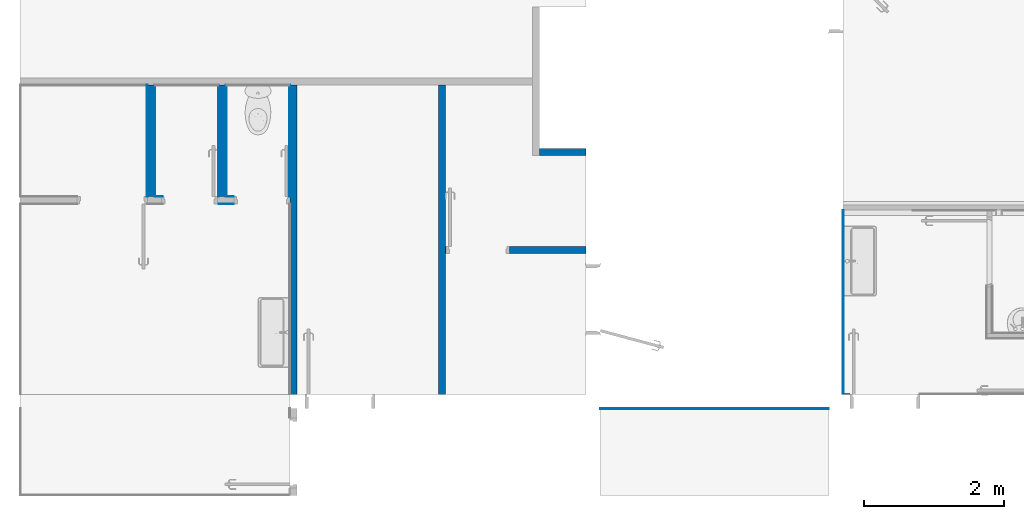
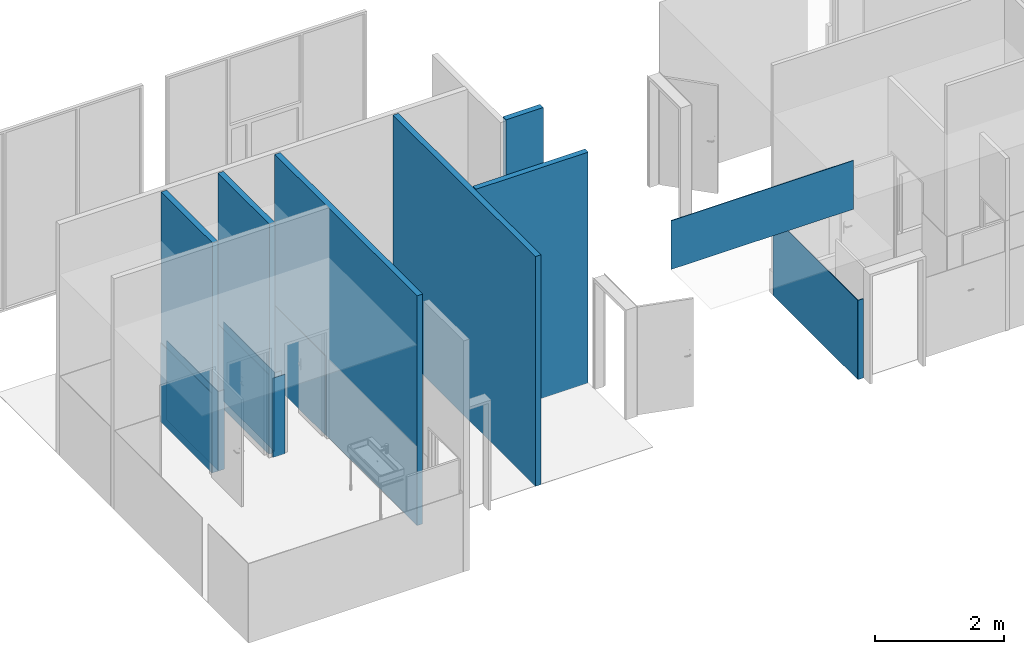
# One storey, part 4 of 18: 17 walls, 3 openings.
"""IFC2X3 building model written with IfcOpenShell, lengths in metres."""

from ifc_helpers import new_model, entity, si_unit, converted_unit, derived_unit, direction, frame, frame_2d, origin, place, context, subcontext, project, spatial, rectangle, extrude, material, layer, layer_set, layer_usage, type_object, element, save


model = new_model("IFC2X3")

# Units and contexts
model_context = context("Model", 3, precision=1e-05, world=origin(), true_north=direction((6.12303176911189e-17, 1.0)))
body_context = subcontext(model_context, "Body", "Model", "MODEL_VIEW")
ifc_project = project(units=[si_unit("LENGTHUNIT", "METRE"), si_unit("AREAUNIT", "SQUARE_METRE"), si_unit("VOLUMEUNIT", "CUBIC_METRE"), converted_unit("PLANEANGLEUNIT", "DEGREE", entity("IfcRatioMeasure", 0.0174532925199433), si_unit("PLANEANGLEUNIT", "RADIAN"), dimensions=[0, 0, 0, 0, 0, 0, 0]), si_unit("MASSUNIT", "GRAM", prefix="KILO"), derived_unit("MASSDENSITYUNIT", [(si_unit("MASSUNIT", "GRAM", prefix="KILO"), 1), (si_unit("LENGTHUNIT", "METRE"), -3)]), si_unit("TIMEUNIT", "SECOND"), si_unit("FREQUENCYUNIT", "HERTZ"), si_unit("THERMODYNAMICTEMPERATUREUNIT", "DEGREE_CELSIUS"), derived_unit("THERMALTRANSMITTANCEUNIT", [(si_unit("MASSUNIT", "GRAM", prefix="KILO"), 1), (si_unit("THERMODYNAMICTEMPERATUREUNIT", "KELVIN"), -1), (si_unit("TIMEUNIT", "SECOND"), -3)]), derived_unit("VOLUMETRICFLOWRATEUNIT", [(si_unit("LENGTHUNIT", "METRE"), 3), (si_unit("TIMEUNIT", "SECOND"), -1)]), si_unit("ELECTRICCURRENTUNIT", "AMPERE"), si_unit("ELECTRICVOLTAGEUNIT", "VOLT"), si_unit("POWERUNIT", "WATT"), si_unit("FORCEUNIT", "NEWTON", prefix="KILO"), si_unit("ILLUMINANCEUNIT", "LUX"), si_unit("LUMINOUSFLUXUNIT", "LUMEN"), si_unit("LUMINOUSINTENSITYUNIT", "CANDELA"), derived_unit("USERDEFINED", [(si_unit("MASSUNIT", "GRAM", prefix="KILO"), -1), (si_unit("LENGTHUNIT", "METRE"), -2), (si_unit("TIMEUNIT", "SECOND"), 3), (si_unit("LUMINOUSFLUXUNIT", "LUMEN"), 1)]), derived_unit("LINEARVELOCITYUNIT", [(si_unit("LENGTHUNIT", "METRE"), 1), (si_unit("TIMEUNIT", "SECOND"), -1)]), si_unit("PRESSUREUNIT", "PASCAL"), derived_unit("USERDEFINED", [(si_unit("LENGTHUNIT", "METRE"), -2), (si_unit("MASSUNIT", "GRAM", prefix="KILO"), 1), (si_unit("TIMEUNIT", "SECOND"), -2)])], contexts=[model_context])

# Site, building, storey
site_placement = place(None, origin())
site = spatial("IfcSite", under=ifc_project, at=site_placement, Name="Surface", CompositionType="ELEMENT")
building_placement = place(site_placement, origin())
building = spatial("IfcBuilding", under=site, at=building_placement, Name="ExPREF", CompositionType="ELEMENT")
storey_placement = place(building_placement, frame((0.0, 0.0, -4.62)))
storey = spatial("IfcBuildingStorey", under=building, at=storey_placement, Name="R-1", CompositionType="ELEMENT", Elevation=-4.62)

# Wall
ifc_material_1 = material(Name="AA-parpaing")
ifc_layer_1 = layer(ifc_material_1, 0.1)
ifc_layer_set_1 = layer_set([ifc_layer_1], Name="Mur de base:A-mur parpaing 10")
ifc_layer_usage_1 = layer_usage(ifc_layer_set_1, "AXIS2", "POSITIVE", -0.05)
wall_type_1 = type_object("IfcWallType", Name="Mur de base:A-mur parpaing 10", PredefinedType="STANDARD", material=ifc_layer_set_1)
wall_1_placement = place(storey_placement, frame((40.992743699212, -189.80806962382, 0.0)))
element("IfcWallStandardCase", 1, at=wall_1_placement, inside=storey, type_object=wall_type_1, material=ifc_layer_usage_1, Name="Mur de base:A-mur parpaing 10", ObjectType="Mur de base:A-mur parpaing 10", context=body_context, shape_type="SweptSolid", body=[
    extrude(rectangle(XDim=0.667000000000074, YDim=0.0999999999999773, at=frame_2d((0.333500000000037, 0.0), x_axis=(-1.0, 0.0))), origin(), (0.0, 0.0, 1.0), 4.3649999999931),
])

# Wall, opening
ifc_layer_usage_2 = layer_usage(ifc_layer_set_1, "AXIS2", "NEGATIVE", 0.05)
wall_2_placement = place(storey_placement, frame((37.4897436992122, -188.848464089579, 0.0), z_axis=(0.0, 0.0, 1.0), x_axis=(0.0, -1.0, 0.0)))
wall_2 = element("IfcWallStandardCase", 2, at=wall_2_placement, inside=storey, type_object=wall_type_1, material=ifc_layer_usage_2, Name="Mur de base:A-mur parpaing 10", ObjectType="Mur de base:A-mur parpaing 10", context=body_context, shape_type="SweptSolid", body=[
    extrude(rectangle(XDim=4.41118721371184, YDim=0.100000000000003, at=frame_2d((2.20559360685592, -8.32667268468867e-17), x_axis=(-1.0, 0.0))), origin(), (0.0, 0.0, 1.0), 4.34499999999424),
])
opening_1_placement = place(wall_2_placement, frame((1.69500000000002, -0.849999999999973, 0.0)))
element("IfcOpeningElement", 3, at=opening_1_placement, cuts=wall_2, Name="Mur de base:A-mur parpaing 10", ObjectType="Opening", context=body_context, shape_type="SweptSolid", body=[
    extrude(rectangle(XDim=2.075, YDim=0.100000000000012, at=frame_2d((-1.73229486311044e-14, -3.33066907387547e-16), x_axis=(0.0, 1.0))), frame((-0.0500000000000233, 0.0, 1.0375), z_axis=(0.0, 1.0, 0.0), x_axis=(-1.0, 0.0, 0.0)), (0.0, 0.0, 1.0), 0.8),
])

# Wall
ifc_layer_usage_3 = layer_usage(ifc_layer_set_1, "AXIS2", "NEGATIVE", 0.05)
wall_3_placement = place(storey_placement, frame((39.6047436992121, -193.259651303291, 0.0), z_axis=(0.0, 0.0, 1.0), x_axis=(0.0, 1.0, 0.0)))
element("IfcWallStandardCase", 4, at=wall_3_placement, inside=storey, type_object=wall_type_1, material=ifc_layer_usage_3, Name="Mur de base:A-mur parpaing 10", ObjectType="Mur de base:A-mur parpaing 10", context=body_context, shape_type="SweptSolid", body=[
    extrude(rectangle(XDim=4.41118721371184, YDim=0.0999999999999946, at=frame_2d((2.20559360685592, 1.60635393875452e-15), x_axis=(-1.0, 0.0))), origin(), (0.0, 0.0, 1.0), 4.34499999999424),
])

# Wall, opening
ifc_layer_usage_4 = layer_usage(ifc_layer_set_1, "AXIS2", "NEGATIVE", 0.05)
wall_4_placement = place(storey_placement, frame((39.6547436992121, -191.199651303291, 0.0)))
wall_4 = element("IfcWallStandardCase", 5, at=wall_4_placement, inside=storey, type_object=wall_type_1, material=ifc_layer_usage_4, Name="Mur de base:A-mur parpaing 10", ObjectType="Mur de base:A-mur parpaing 10", context=body_context, shape_type="SweptSolid", body=[
    extrude(rectangle(XDim=2.00499999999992, YDim=0.0999999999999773, at=frame_2d((1.00249999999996, 0.0), x_axis=(-1.0, 0.0))), origin(), (0.0, 0.0, 1.0), 4.3649999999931),
])
opening_2_placement = place(wall_4_placement, frame((0.00999999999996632, -0.05, 0.0)))
element("IfcOpeningElement", 6, at=opening_2_placement, cuts=wall_4, Name="Porte intérieur bois:PP (0.83m x 2.04m):1", ObjectType="Opening", context=body_context, shape_type="SweptSolid", body=[
    extrude(rectangle(XDim=2.075, YDim=0.9, at=frame_2d((1.0375, 0.45), x_axis=(1.0, 0.0))), frame((0.0, 0.0, 0.0), z_axis=(0.0, 1.0, 0.0), x_axis=(0.0, 0.0, 1.0)), (0.0, 0.0, 1.0), 0.1),
])

# Walls
ifc_layer_usage_5 = layer_usage(ifc_layer_set_1, "AXIS2", "POSITIVE", -0.05)
wall_5_placement = place(storey_placement, frame((36.4747436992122, -190.443464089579, 0.0), z_axis=(0.0, 0.0, 1.0), x_axis=(0.0, 1.0, 0.0)))
element("IfcWallStandardCase", 7, at=wall_5_placement, inside=storey, type_object=wall_type_1, material=ifc_layer_usage_5, Name="Mur de base:A-mur parpaing 10", ObjectType="Mur de base:A-mur parpaing 10", context=body_context, shape_type="SweptSolid", body=[
    extrude(rectangle(XDim=1.595, YDim=0.100000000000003, at=frame_2d((0.797500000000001, 0.0), x_axis=(-1.0, 0.0))), origin(), (0.0, 0.0, 1.0), 4.34499999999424),
])
ifc_layer_usage_6 = layer_usage(ifc_layer_set_1, "AXIS2", "POSITIVE", -0.05)
wall_6_placement = place(storey_placement, frame((35.4597436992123, -190.443464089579, 0.0), z_axis=(0.0, 0.0, 1.0), x_axis=(0.0, 1.0, 0.0)))
element("IfcWallStandardCase", 8, at=wall_6_placement, inside=storey, type_object=wall_type_1, material=ifc_layer_usage_6, Name="Mur de base:A-mur parpaing 10", ObjectType="Mur de base:A-mur parpaing 10", context=body_context, shape_type="SweptSolid", body=[
    extrude(rectangle(XDim=1.595, YDim=0.100000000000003, at=frame_2d((0.797500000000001, 0.0), x_axis=(-1.0, 0.0))), origin(), (0.0, 0.0, 1.0), 4.3449999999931),
])
ifc_material_2 = material(Name="AA-fermacell peint")
ifc_layer_2 = layer(ifc_material_2, 0.0125)
ifc_layer_set_2 = layer_set([ifc_layer_2], Name="Mur de base:A-plaque FC")
ifc_layer_usage_7 = layer_usage(ifc_layer_set_2, "AXIS2", "NEGATIVE", 0.00625)
wall_type_2 = type_object("IfcWallType", Name="Mur de base:A-plaque FC", PredefinedType="STANDARD", material=ifc_layer_set_2)
wall_7_placement = place(storey_placement, frame((41.8597436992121, -193.465901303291, 3.4225)))
element("IfcWallStandardCase", 9, at=wall_7_placement, inside=storey, type_object=wall_type_2, material=ifc_layer_usage_7, Name="Mur de base:A-plaque FC", ObjectType="Mur de base:A-plaque FC", context=body_context, shape_type="SweptSolid", body=[
    extrude(rectangle(XDim=3.25999999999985, YDim=0.0125000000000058, at=frame_2d((1.62999999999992, 0.0), x_axis=(-1.0, 0.0))), origin(), (0.0, 0.0, 1.0), 0.922499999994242),
])
ifc_material_3 = material(Name="AA-sol carrelage")
ifc_layer_3 = layer(ifc_material_3, 0.01)
ifc_layer_set_3 = layer_set([ifc_layer_3], Name="Mur de base:A-carrelage")
ifc_layer_usage_8 = layer_usage(ifc_layer_set_3, "AXIS2", "NEGATIVE", 0.005)
wall_type_3 = type_object("IfcWallType", Name="Mur de base:A-carrelage", PredefinedType="STANDARD", material=ifc_layer_set_3)
wall_8_placement = place(storey_placement, frame((45.4197436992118, -193.254651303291, 0.0), z_axis=(0.0, 0.0, 1.0), x_axis=(-1.0, 0.0, 0.0)))
element("IfcWallStandardCase", 10, at=wall_8_placement, inside=storey, type_object=wall_type_3, material=ifc_layer_usage_8, Name="Mur de base:A-carrelage", ObjectType="Mur de base:A-carrelage", context=body_context, shape_type="SweptSolid", body=[
    extrude(rectangle(XDim=0.0999999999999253, YDim=0.0100000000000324, at=frame_2d((0.0499999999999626, 0.0), x_axis=(-1.0, 0.0))), origin(), (0.0, 0.0, 1.0), 1.5),
])
ifc_layer_usage_9 = layer_usage(ifc_layer_set_3, "AXIS2", "NEGATIVE", 0.005)
wall_9_placement = place(storey_placement, frame((45.3247436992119, -193.249651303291, 0.0), z_axis=(0.0, 0.0, 1.0), x_axis=(0.0, 1.0, 0.0)))
element("IfcWallStandardCase", 11, at=wall_9_placement, inside=storey, type_object=wall_type_3, material=ifc_layer_usage_9, Name="Mur de base:A-carrelage", ObjectType="Mur de base:A-carrelage", context=body_context, shape_type="SweptSolid", body=[
    extrude(rectangle(XDim=2.61658136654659, YDim=0.00999999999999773, at=frame_2d((1.3082906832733, 0.0), x_axis=(-1.0, 0.0))), origin(), (0.0, 0.0, 1.0), 1.5),
])

# Wall, opening
ifc_layer_usage_10 = layer_usage(ifc_layer_set_3, "AXIS2", "NEGATIVE", 0.005)
wall_10_placement = place(storey_placement, frame((37.4347436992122, -188.848464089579, 0.0), z_axis=(0.0, 0.0, 1.0), x_axis=(0.0, -1.0, 0.0)))
wall_10 = element("IfcWallStandardCase", 12, at=wall_10_placement, inside=storey, type_object=wall_type_3, material=ifc_layer_usage_10, Name="Mur de base:A-carrelage", ObjectType="Mur de base:A-carrelage", context=body_context, shape_type="SweptSolid", body=[
    extrude(rectangle(XDim=1.595, YDim=0.00999999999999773, at=frame_2d((0.797500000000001, 0.0), x_axis=(-1.0, 0.0))), origin(), (0.0, 0.0, 1.0), 1.5),
])
opening_3_placement = place(wall_10_placement, frame((1.69499999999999, -0.794999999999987, 0.0)))
element("IfcOpeningElement", 13, at=opening_3_placement, cuts=wall_10, Name="Mur de base:A-carrelage", ObjectType="Opening", context=body_context, shape_type="SweptSolid", body=[
    extrude(rectangle(XDim=2.075, YDim=0.100000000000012, at=frame_2d((-1.73229486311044e-14, -3.33066907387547e-16), x_axis=(0.0, 1.0))), frame((-0.0500000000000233, 0.0, 1.0375), z_axis=(0.0, 1.0, 0.0), x_axis=(-1.0, 0.0, 0.0)), (0.0, 0.0, 1.0), 0.8),
])

# Walls
ifc_layer_usage_11 = layer_usage(ifc_layer_set_3, "AXIS2", "NEGATIVE", 0.005)
wall_11_placement = place(storey_placement, frame((36.6397436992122, -190.438464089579, 0.0), z_axis=(0.0, 0.0, 1.0), x_axis=(-1.0, 0.0, 0.0)))
element("IfcWallStandardCase", 14, at=wall_11_placement, inside=storey, type_object=wall_type_3, material=ifc_layer_usage_11, Name="Mur de base:A-carrelage", ObjectType="Mur de base:A-carrelage", context=body_context, shape_type="SweptSolid", body=[
    extrude(rectangle(XDim=0.115, YDim=0.0100000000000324, at=frame_2d((0.0574999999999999, 0.0), x_axis=(-1.0, 0.0))), origin(), (0.0, 0.0, 1.0), 1.5),
])
ifc_layer_usage_12 = layer_usage(ifc_layer_set_3, "AXIS2", "NEGATIVE", 0.005)
wall_12_placement = place(storey_placement, frame((36.5297436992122, -190.433464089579, 0.0), z_axis=(0.0, 0.0, 1.0), x_axis=(0.0, 1.0, 0.0)))
element("IfcWallStandardCase", 15, at=wall_12_placement, inside=storey, type_object=wall_type_3, material=ifc_layer_usage_12, Name="Mur de base:A-carrelage", ObjectType="Mur de base:A-carrelage", context=body_context, shape_type="SweptSolid", body=[
    extrude(rectangle(XDim=1.585, YDim=0.00999999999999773, at=frame_2d((0.792500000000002, 8.53483950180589e-16), x_axis=(-1.0, 0.0))), origin(), (0.0, 0.0, 1.0), 1.5),
])
ifc_layer_usage_13 = layer_usage(ifc_layer_set_3, "AXIS2", "NEGATIVE", 0.005)
wall_13_placement = place(storey_placement, frame((36.4197436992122, -188.848464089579, 0.0), z_axis=(0.0, 0.0, 1.0), x_axis=(0.0, -1.0, 0.0)))
element("IfcWallStandardCase", 16, at=wall_13_placement, inside=storey, type_object=wall_type_3, material=ifc_layer_usage_13, Name="Mur de base:A-carrelage", ObjectType="Mur de base:A-carrelage", context=body_context, shape_type="SweptSolid", body=[
    extrude(rectangle(XDim=1.595, YDim=0.00999999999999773, at=frame_2d((0.797500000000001, 0.0), x_axis=(-1.0, 0.0))), origin(), (0.0, 0.0, 1.0), 1.5),
])
ifc_layer_usage_14 = layer_usage(ifc_layer_set_3, "AXIS2", "NEGATIVE", 0.005)
wall_14_placement = place(storey_placement, frame((35.6247436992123, -190.438464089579, 0.0), z_axis=(0.0, 0.0, 1.0), x_axis=(-1.0, 0.0, 0.0)))
element("IfcWallStandardCase", 17, at=wall_14_placement, inside=storey, type_object=wall_type_3, material=ifc_layer_usage_14, Name="Mur de base:A-carrelage", ObjectType="Mur de base:A-carrelage", context=body_context, shape_type="SweptSolid", body=[
    extrude(rectangle(XDim=0.115, YDim=0.0100000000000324, at=frame_2d((0.0574999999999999, 0.0), x_axis=(-1.0, 0.0))), origin(), (0.0, 0.0, 1.0), 1.5),
])
ifc_layer_usage_15 = layer_usage(ifc_layer_set_3, "AXIS2", "NEGATIVE", 0.005)
wall_15_placement = place(storey_placement, frame((35.5147436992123, -190.433464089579, 0.0), z_axis=(0.0, 0.0, 1.0), x_axis=(0.0, 1.0, 0.0)))
element("IfcWallStandardCase", 18, at=wall_15_placement, inside=storey, type_object=wall_type_3, material=ifc_layer_usage_15, Name="Mur de base:A-carrelage", ObjectType="Mur de base:A-carrelage", context=body_context, shape_type="SweptSolid", body=[
    extrude(rectangle(XDim=1.585, YDim=0.00999999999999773, at=frame_2d((0.792500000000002, 8.53483950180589e-16), x_axis=(-1.0, 0.0))), origin(), (0.0, 0.0, 1.0), 1.5),
])
ifc_layer_usage_16 = layer_usage(ifc_layer_set_3, "AXIS2", "NEGATIVE", 0.005)
wall_16_placement = place(storey_placement, frame((35.4047436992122, -188.848464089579, 0.0), z_axis=(0.0, 0.0, 1.0), x_axis=(0.0, -1.0, 0.0)))
element("IfcWallStandardCase", 19, at=wall_16_placement, inside=storey, type_object=wall_type_3, material=ifc_layer_usage_16, Name="Mur de base:A-carrelage", ObjectType="Mur de base:A-carrelage", context=body_context, shape_type="SweptSolid", body=[
    extrude(rectangle(XDim=1.595, YDim=0.00999999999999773, at=frame_2d((0.797500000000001, 0.0), x_axis=(-1.0, 0.0))), origin(), (0.0, 0.0, 1.0), 1.5),
])
ifc_layer_usage_17 = layer_usage(ifc_layer_set_3, "AXIS2", "NEGATIVE", 0.005)
wall_17_placement = place(storey_placement, frame((36.4247436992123, -190.54846408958, 0.0)))
element("IfcWallStandardCase", 20, at=wall_17_placement, inside=storey, type_object=wall_type_3, material=ifc_layer_usage_17, Name="Mur de base:A-carrelage", ObjectType="Mur de base:A-carrelage", context=body_context, shape_type="SweptSolid", body=[
    extrude(rectangle(XDim=0.214999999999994, YDim=0.0100000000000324, at=frame_2d((0.107499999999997, 0.0), x_axis=(-1.0, 0.0))), origin(), (0.0, 0.0, 1.0), 1.5),
])

save(model, "model.ifc")
